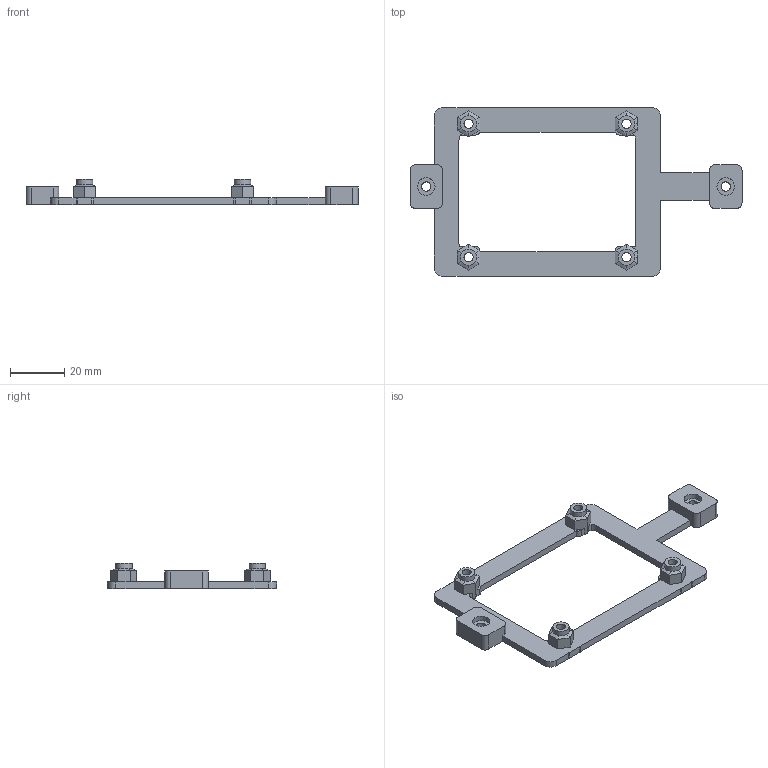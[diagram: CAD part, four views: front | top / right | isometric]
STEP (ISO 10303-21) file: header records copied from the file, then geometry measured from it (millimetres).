
FILE_DESCRIPTION(('FreeCAD Model'),'2;1');
FILE_NAME('Open CASCADE Shape Model','2026-10-26T18:20:28',('FreeCAD'),( 'FreeCAD'),'Open CASCADE STEP processor 7.8','FreeCAD','Unknown');
FILE_SCHEMA(('AUTOMOTIVE_DESIGN { 1 0 10303 214 1 1 1 1 }'));
Length unit declared in the file: millimetre
Products named in the file (1): Open CASCADE STEP translator 7.8 5
Bounding box: 122 x 62.2 x 9.3 mm (x, y, z)
Volume: 8833.8 mm3; surface area: 8926.5 mm2
Topology: 1 solids, 1 shells, 172 faces, 464 edges, 300 vertices
Faces by surface type: plane 100, cylinder 44, bspline 28
Full cylindrical faces by diameter (mm): 3.4 x6, 6 x4, 6.4 x2
Entity records: 5686 total; most frequent: CARTESIAN_POINT 1369, ORIENTED_EDGE 928, DIRECTION 838, EDGE_CURVE 464, LINE 324, VECTOR 324, VERTEX_POINT 300, AXIS2_PLACEMENT_3D 257
